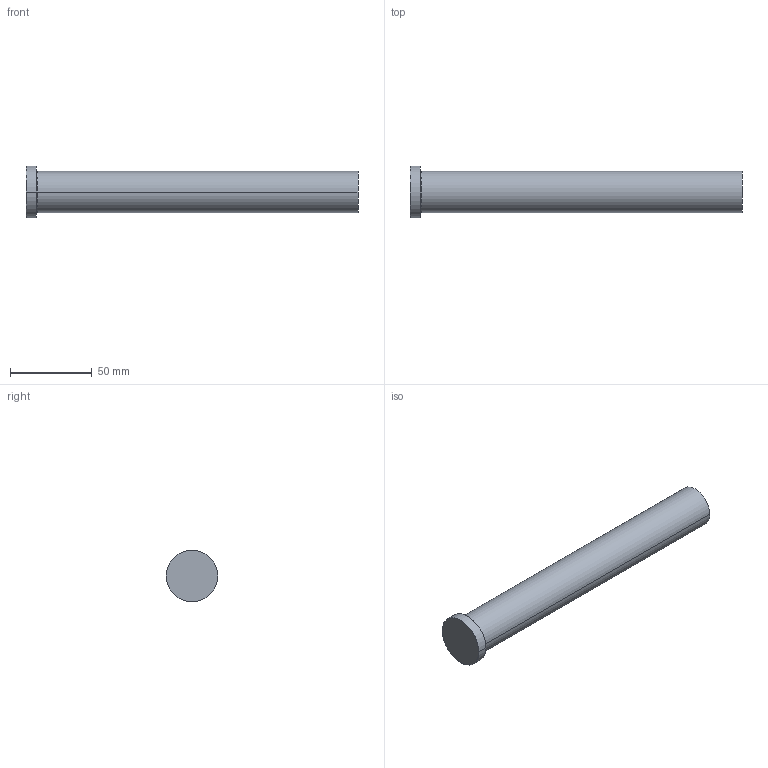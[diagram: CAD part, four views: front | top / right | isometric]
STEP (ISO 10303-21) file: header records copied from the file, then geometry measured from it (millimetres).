
FILE_DESCRIPTION (( 'STEP AP214' ), '1' );
FILE_NAME ('P47-8.STEP', '2020-03-12T12:26:18', ( '' ), ( '' ), 'SwSTEP 2.0', 'SolidWorks 2018', '' );
FILE_SCHEMA (( 'AUTOMOTIVE_DESIGN' ));
Length unit declared in the file: inch
Products named in the file (1): P47-8
Bounding box: 203.2 x 31.75 x 31.75 mm (x, y, z)
Volume: 104682.2 mm3; surface area: 17879.2 mm2
Topology: 1 solids, 1 shells, 13 faces, 24 edges, 14 vertices
Faces by surface type: cone 4, cylinder 4, plane 3, torus 2
Entity records: 366 total; most frequent: DIRECTION 68, CARTESIAN_POINT 52, ORIENTED_EDGE 48, AXIS2_PLACEMENT_3D 30, EDGE_CURVE 24, CIRCLE 16, EDGE_LOOP 14, VERTEX_POINT 14
